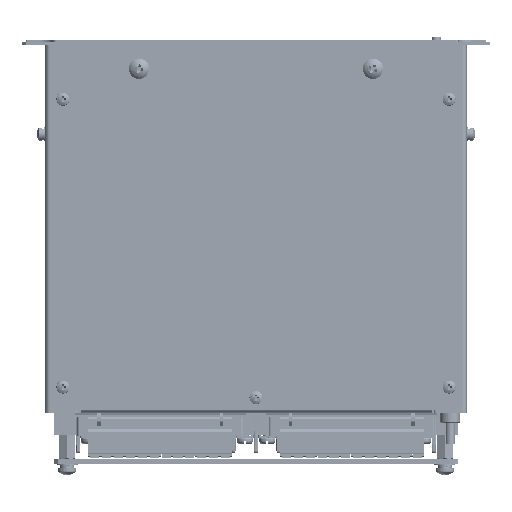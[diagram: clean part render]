
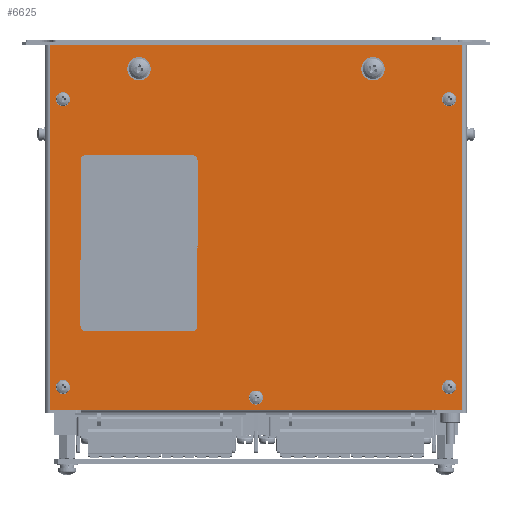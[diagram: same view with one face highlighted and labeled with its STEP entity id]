
A CAD part, left-side view. The second image highlights one B-rep face of the part: STEP entity #6625.
In plain terms, the highlighted planar face has unit normal (-1, 0, 0) as drawn and (0, 0, 1) by its records, which use the part's own axes.
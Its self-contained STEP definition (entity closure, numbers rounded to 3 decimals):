
#6625=ADVANCED_FACE('',(#246747,#246749,#246751,#246753,#246755,#246757,#246759,
#246761),#246763,.T.);
#246747=FACE_BOUND('',#246748,.T.);
#246748=EDGE_LOOP('',(#448606,#448607,#448608,#448609));
#246749=FACE_BOUND('',#246750,.T.);
#246750=EDGE_LOOP('',(#448610));
#246751=FACE_BOUND('',#246752,.T.);
#246752=EDGE_LOOP('',(#448611));
#246753=FACE_BOUND('',#246754,.T.);
#246754=EDGE_LOOP('',(#448612));
#246755=FACE_BOUND('',#246756,.T.);
#246756=EDGE_LOOP('',(#448613));
#246757=FACE_BOUND('',#246758,.T.);
#246758=EDGE_LOOP('',(#448614));
#246759=FACE_BOUND('',#246760,.T.);
#246760=EDGE_LOOP('',(#448615));
#246761=FACE_BOUND('',#246762,.T.);
#246762=EDGE_LOOP('',(#448616));
#246763=PLANE('',#246764);
#246764=AXIS2_PLACEMENT_3D('',#246765,#246766,#246767);
#246765=CARTESIAN_POINT('',(0.,0.,1.));
#246766=DIRECTION('',(0.,0.,1.));
#246767=DIRECTION('',(1.,0.,0.));
#448606=ORIENTED_EDGE('',*,*,#615069,.T.);
#448607=ORIENTED_EDGE('',*,*,#615070,.T.);
#448608=ORIENTED_EDGE('',*,*,#615071,.T.);
#448609=ORIENTED_EDGE('',*,*,#615072,.T.);
#448610=ORIENTED_EDGE('',*,*,#615073,.T.);
#448611=ORIENTED_EDGE('',*,*,#615074,.T.);
#448612=ORIENTED_EDGE('',*,*,#615075,.T.);
#448613=ORIENTED_EDGE('',*,*,#615076,.T.);
#448614=ORIENTED_EDGE('',*,*,#615077,.T.);
#448615=ORIENTED_EDGE('',*,*,#615078,.T.);
#448616=ORIENTED_EDGE('',*,*,#615079,.T.);
#615069=EDGE_CURVE('',#694670,#694671,#694672,.T.);
#615070=EDGE_CURVE('',#694671,#694673,#694674,.T.);
#615071=EDGE_CURVE('',#694673,#694675,#694676,.T.);
#615072=EDGE_CURVE('',#694675,#694670,#694677,.T.);
#615073=EDGE_CURVE('',#694678,#694678,#694679,.F.);
#615074=EDGE_CURVE('',#694680,#694680,#694681,.F.);
#615075=EDGE_CURVE('',#694682,#694682,#694683,.F.);
#615076=EDGE_CURVE('',#694684,#694684,#694685,.F.);
#615077=EDGE_CURVE('',#694686,#694686,#694687,.F.);
#615078=EDGE_CURVE('',#694688,#694688,#694689,.F.);
#615079=EDGE_CURVE('',#694690,#694690,#694691,.F.);
#694670=VERTEX_POINT('',#826334);
#694671=VERTEX_POINT('',#826335);
#694672=LINE('',#826336,#826337);
#694673=VERTEX_POINT('',#826339);
#694674=LINE('',#826340,#826341);
#694675=VERTEX_POINT('',#826343);
#694676=LINE('',#826344,#826345);
#694677=LINE('',#826347,#826348);
#694678=VERTEX_POINT('',#826350);
#694679=CIRCLE('',#826351,1.75);
#694680=VERTEX_POINT('',#826355);
#694681=CIRCLE('',#826356,2.25);
#694682=VERTEX_POINT('',#826360);
#694683=CIRCLE('',#826361,2.25);
#694684=VERTEX_POINT('',#826365);
#694685=CIRCLE('',#826366,1.75);
#694686=VERTEX_POINT('',#826370);
#694687=CIRCLE('',#826371,1.75);
#694688=VERTEX_POINT('',#826375);
#694689=CIRCLE('',#826376,1.75);
#694690=VERTEX_POINT('',#826380);
#694691=CIRCLE('',#826381,1.75);
#826334=CARTESIAN_POINT('',(78.,88.,1.));
#826335=CARTESIAN_POINT('',(-78.,88.,1.));
#826336=CARTESIAN_POINT('',(78.,88.,1.));
#826337=VECTOR('',#826338,1.);
#826338=DIRECTION('',(-1.,0.,0.));
#826339=CARTESIAN_POINT('',(-78.,-88.,1.));
#826340=CARTESIAN_POINT('',(-78.,88.,1.));
#826341=VECTOR('',#826342,1.);
#826342=DIRECTION('',(0.,-1.,0.));
#826343=CARTESIAN_POINT('',(78.,-88.,1.));
#826344=CARTESIAN_POINT('',(-78.,-88.,1.));
#826345=VECTOR('',#826346,1.);
#826346=DIRECTION('',(1.,0.,0.));
#826347=CARTESIAN_POINT('',(78.,-88.,1.));
#826348=VECTOR('',#826349,1.);
#826349=DIRECTION('',(0.,1.,0.));
#826350=CARTESIAN_POINT('',(74.25,0.,1.));
#826351=AXIS2_PLACEMENT_3D('',#826352,#826353,#826354);
#826352=CARTESIAN_POINT('',(72.5,0.,1.));
#826353=DIRECTION('',(0.,0.,1.));
#826354=DIRECTION('',(1.,0.,0.));
#826355=CARTESIAN_POINT('',(-65.75,50.,1.));
#826356=AXIS2_PLACEMENT_3D('',#826357,#826358,#826359);
#826357=CARTESIAN_POINT('',(-68.,50.,1.));
#826358=DIRECTION('',(0.,0.,1.));
#826359=DIRECTION('',(1.,0.,0.));
#826360=CARTESIAN_POINT('',(-65.75,-50.,1.));
#826361=AXIS2_PLACEMENT_3D('',#826362,#826363,#826364);
#826362=CARTESIAN_POINT('',(-68.,-50.,1.));
#826363=DIRECTION('',(0.,0.,1.));
#826364=DIRECTION('',(1.,0.,0.));
#826365=CARTESIAN_POINT('',(-53.25,82.5,1.));
#826366=AXIS2_PLACEMENT_3D('',#826367,#826368,#826369);
#826367=CARTESIAN_POINT('',(-55.,82.5,1.));
#826368=DIRECTION('',(0.,0.,1.));
#826369=DIRECTION('',(1.,0.,0.));
#826370=CARTESIAN_POINT('',(69.75,82.5,1.));
#826371=AXIS2_PLACEMENT_3D('',#826372,#826373,#826374);
#826372=CARTESIAN_POINT('',(68.,82.5,1.));
#826373=DIRECTION('',(0.,0.,1.));
#826374=DIRECTION('',(1.,0.,0.));
#826375=CARTESIAN_POINT('',(-53.25,-82.5,1.));
#826376=AXIS2_PLACEMENT_3D('',#826377,#826378,#826379);
#826377=CARTESIAN_POINT('',(-55.,-82.5,1.));
#826378=DIRECTION('',(0.,0.,1.));
#826379=DIRECTION('',(1.,0.,0.));
#826380=CARTESIAN_POINT('',(69.75,-82.5,1.));
#826381=AXIS2_PLACEMENT_3D('',#826382,#826383,#826384);
#826382=CARTESIAN_POINT('',(68.,-82.5,1.));
#826383=DIRECTION('',(0.,0.,1.));
#826384=DIRECTION('',(1.,0.,0.));
